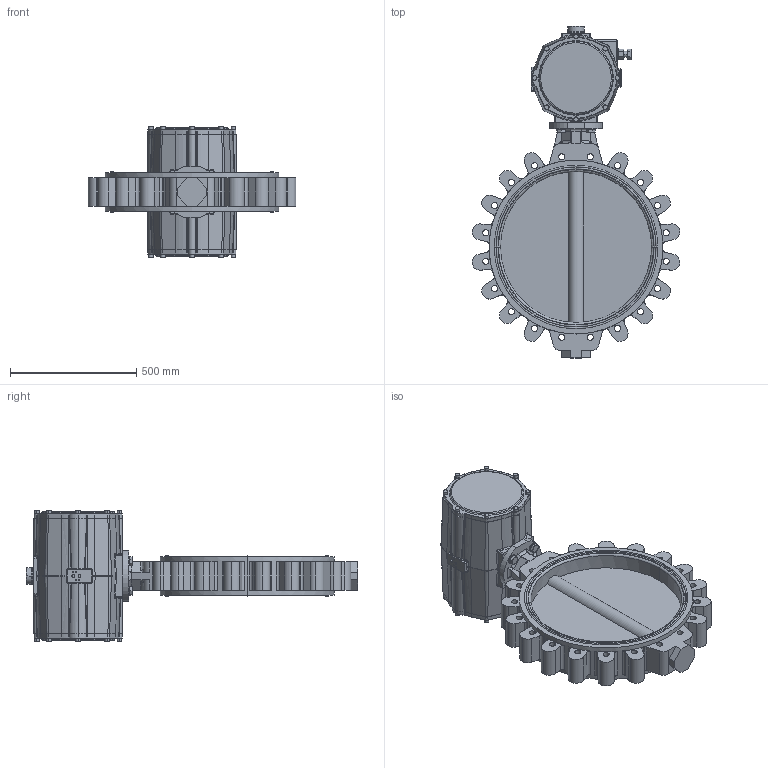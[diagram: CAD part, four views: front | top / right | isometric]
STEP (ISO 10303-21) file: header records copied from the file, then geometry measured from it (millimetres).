
FILE_DESCRIPTION (( 'STEP AP214' ), '1' );
FILE_NAME ('67723.step', '2020-10-26T07:28:37', ( '' ), ( '' ), 'SwSTEP 2.0', 'SolidWorks 2019', '' );
FILE_SCHEMA (( 'AUTOMOTIVE_DESIGN' ));
Length unit declared in the file: millimetre
Products named in the file (5): TL20-0600_M01; 67723; 6kt-Schr DIN 933_M20x50; DA2500-V46_02; U-Scheibe DIN 125 A_M20
Assembly tree (10 placements, depth 2):
  67723
    TL20-0600_M01
    DA2500-V46_02
    6kt-Schr DIN 933_M20x50  x4
    U-Scheibe DIN 125 A_M20  x4
Bounding box: 823.44 x 1317 x 518 mm (x, y, z)
Volume: 79143500.2 mm3; surface area: 2905827.8 mm2
Topology: 11 solids, 11 shells, 1145 faces, 2754 edges, 1704 vertices
Faces by surface type: cylinder 426, plane 366, torus 139, bspline 120, cone 78, sphere 16
Entity records: 40027 total; most frequent: CARTESIAN_POINT 11596, DIRECTION 5407, ORIENTED_EDGE 5092, EDGE_CURVE 2546, AXIS2_PLACEMENT_3D 2202, VERTEX_POINT 1584, CIRCLE 1263, EDGE_LOOP 1172
